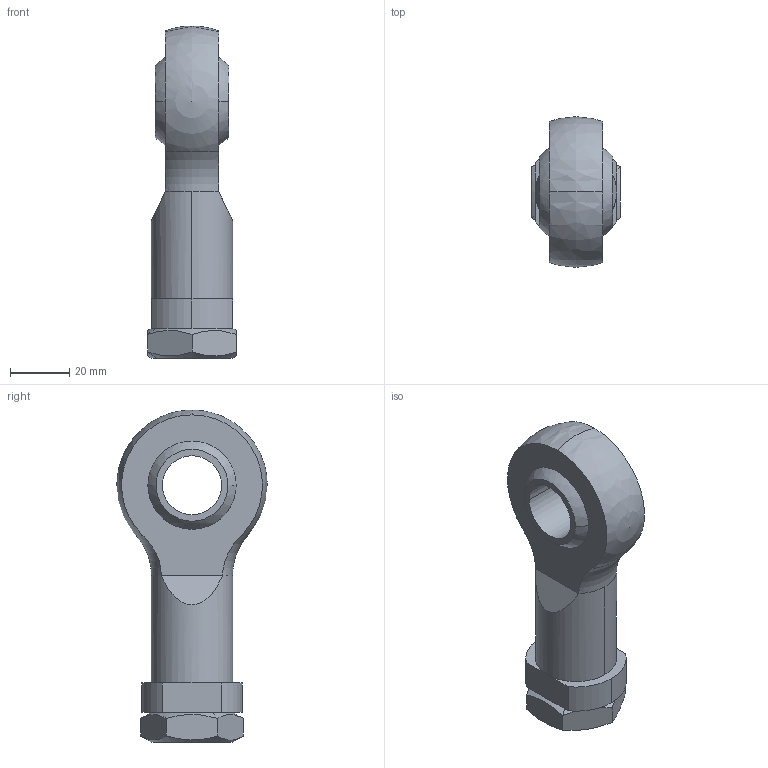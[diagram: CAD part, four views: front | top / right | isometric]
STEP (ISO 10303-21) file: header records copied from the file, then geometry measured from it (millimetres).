
FILE_DESCRIPTION (( 'STEP AP203' ), '1' );
FILE_NAME ('MJ3-KGK.STEP', '2024-01-15T15:19:39', ( '' ), ( '' ), 'SwSTEP 2.0', 'SolidWorks 2022', '' );
FILE_SCHEMA (( 'CONFIG_CONTROL_DESIGN' ));
Length unit declared in the file: millimetre
Products named in the file (1): MJ3-KGK
Bounding box: 30 x 51 x 112.5 mm (x, y, z)
Volume: 59343.6 mm3; surface area: 17605 mm2
Topology: 2 solids, 2 shells, 49 faces, 118 edges, 72 vertices
Faces by surface type: plane 19, cylinder 12, cone 10, sphere 6, torus 2
Entity records: 1615 total; most frequent: CARTESIAN_POINT 432, DIRECTION 248, ORIENTED_EDGE 222, EDGE_CURVE 111, AXIS2_PLACEMENT_3D 105, VERTEX_POINT 69, EDGE_LOOP 56, CIRCLE 55
